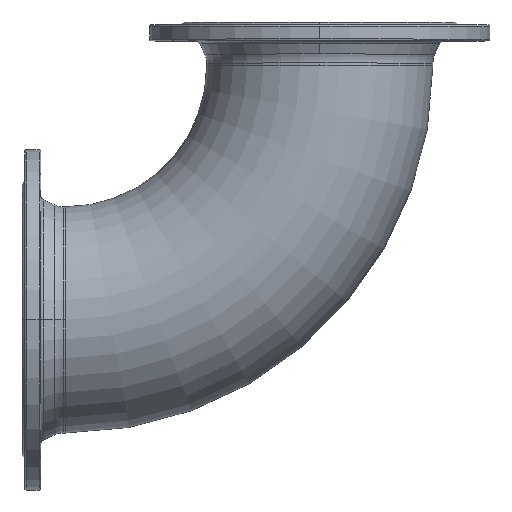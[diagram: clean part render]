
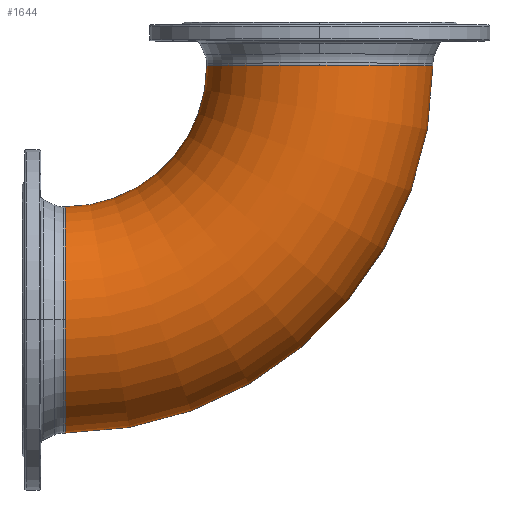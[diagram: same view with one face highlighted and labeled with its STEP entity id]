
A CAD part, top view. The second image highlights one B-rep face of the part: STEP entity #1644.
In plain terms, the highlighted toroidal (fillet/blend) face has major radius 299 mm and minor radius 133 mm.
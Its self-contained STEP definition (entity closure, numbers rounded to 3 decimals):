
#37 = CARTESIAN_POINT ( 'NONE',  ( 51., 0., 0. ) ) ;
#188 = CARTESIAN_POINT ( 'NONE',  ( 51., -133., 0. ) ) ;
#362 = DIRECTION ( 'NONE',  ( 0., 1., 0. ) ) ;
#404 = EDGE_CURVE ( 'Defeatured_0_4+Defeatured_0_3+Defeatured_0_3+Defeatured_0_3', #1498, #2024, #740, .T. ) ;
#437 = TOROIDAL_SURFACE ( 'NONE', #1981, 299., 133. ) ;
#448 = CARTESIAN_POINT ( 'NONE',  ( 51., 133., 0. ) ) ;
#740 = CIRCLE ( 'NONE', #2190, 133. ) ;
#833 = DIRECTION ( 'NONE',  ( 1., 0., 0. ) ) ;
#847 = EDGE_CURVE ( 'NONE', #1498, #3560, #4720, .T. ) ;
#855 = FACE_OUTER_BOUND ( 'NONE', #3698, .T. ) ;
#881 = CIRCLE ( 'NONE', #3106, 133. ) ;
#1059 = DIRECTION ( 'NONE',  ( 0., 0., -1. ) ) ;
#1170 = EDGE_CURVE ( 'Defeatured_0_2+Defeatured_0_4+Defeatured_0_4+Defeatured_0_4', #1687, #3155, #3428, .T. ) ;
#1498 = VERTEX_POINT ( 'NONE', #448 ) ;
#1624 = CARTESIAN_POINT ( 'NONE',  ( 350., 299., 133. ) ) ;
#1644 = ADVANCED_FACE ( 'Defeatured_0_4', ( #855 ), #437, .T. ) ;
#1687 = VERTEX_POINT ( 'NONE', #1624 ) ;
#1717 = ORIENTED_EDGE ( 'NONE', *, *, #1170, .F. ) ;
#1934 = ORIENTED_EDGE ( 'NONE', *, *, #3485, .F. ) ;
#1981 = AXIS2_PLACEMENT_3D ( 'NONE', #4497, #4179, #833 ) ;
#2024 = VERTEX_POINT ( 'NONE', #2448 ) ;
#2032 = CIRCLE ( 'NONE', #2646, 133. ) ;
#2120 = EDGE_CURVE ( 'NONE', #3318, #3155, #2516, .T. ) ;
#2178 = CARTESIAN_POINT ( 'NONE',  ( 51., 0., 0. ) ) ;
#2190 = AXIS2_PLACEMENT_3D ( 'NONE', #37, #3353, #3634 ) ;
#2203 = DIRECTION ( 'NONE',  ( 0., 0., 1. ) ) ;
#2316 = DIRECTION ( 'NONE',  ( 0., 0., -1. ) ) ;
#2448 = CARTESIAN_POINT ( 'NONE',  ( 51., 0., 133. ) ) ;
#2516 = CIRCLE ( 'NONE', #4197, 432. ) ;
#2526 = CARTESIAN_POINT ( 'NONE',  ( 350., 299., 0. ) ) ;
#2543 = CARTESIAN_POINT ( 'NONE',  ( 350., 299., 0. ) ) ;
#2646 = AXIS2_PLACEMENT_3D ( 'NONE', #2178, #2883, #1059 ) ;
#2647 = DIRECTION ( 'NONE',  ( 1., 0., 0. ) ) ;
#2732 = AXIS2_PLACEMENT_3D ( 'NONE', #4126, #3389, #2647 ) ;
#2883 = DIRECTION ( 'NONE',  ( 1., 0., 0. ) ) ;
#3075 = DIRECTION ( 'NONE',  ( 0., 0., -1. ) ) ;
#3106 = AXIS2_PLACEMENT_3D ( 'NONE', #2543, #4001, #2316 ) ;
#3155 = VERTEX_POINT ( 'NONE', #3435 ) ;
#3318 = VERTEX_POINT ( 'NONE', #188 ) ;
#3353 = DIRECTION ( 'NONE',  ( 1., 0., 0. ) ) ;
#3367 = ORIENTED_EDGE ( 'NONE', *, *, #2120, .T. ) ;
#3389 = DIRECTION ( 'NONE',  ( 0., 0., 1. ) ) ;
#3428 = CIRCLE ( 'NONE', #4569, 133. ) ;
#3435 = CARTESIAN_POINT ( 'NONE',  ( 483., 299., 0. ) ) ;
#3473 = EDGE_CURVE ( 'Defeatured_0_4+Defeatured_0_3+Defeatured_0_3+Defeatured_0_3', #2024, #3318, #2032, .T. ) ;
#3485 = EDGE_CURVE ( 'Defeatured_0_2+Defeatured_0_4+Defeatured_0_4+Defeatured_0_4', #3560, #1687, #881, .T. ) ;
#3560 = VERTEX_POINT ( 'NONE', #3755 ) ;
#3634 = DIRECTION ( 'NONE',  ( 0., 0., -1. ) ) ;
#3698 = EDGE_LOOP ( 'NONE', ( #3841, #3367, #1717, #1934, #4173, #4562 ) ) ;
#3755 = CARTESIAN_POINT ( 'NONE',  ( 217., 299., 0. ) ) ;
#3841 = ORIENTED_EDGE ( 'NONE', *, *, #3473, .T. ) ;
#4000 = CARTESIAN_POINT ( 'NONE',  ( 51., 299., 0. ) ) ;
#4001 = DIRECTION ( 'NONE',  ( 0., 1., 0. ) ) ;
#4126 = CARTESIAN_POINT ( 'NONE',  ( 51., 299., 0. ) ) ;
#4173 = ORIENTED_EDGE ( 'NONE', *, *, #847, .F. ) ;
#4179 = DIRECTION ( 'NONE',  ( 0., 0., 1. ) ) ;
#4197 = AXIS2_PLACEMENT_3D ( 'NONE', #4000, #2203, #4382 ) ;
#4382 = DIRECTION ( 'NONE',  ( 1., 0., 0. ) ) ;
#4497 = CARTESIAN_POINT ( 'NONE',  ( 51., 299., 0. ) ) ;
#4562 = ORIENTED_EDGE ( 'NONE', *, *, #404, .T. ) ;
#4569 = AXIS2_PLACEMENT_3D ( 'NONE', #2526, #362, #3075 ) ;
#4720 = CIRCLE ( 'NONE', #2732, 166. ) ;
